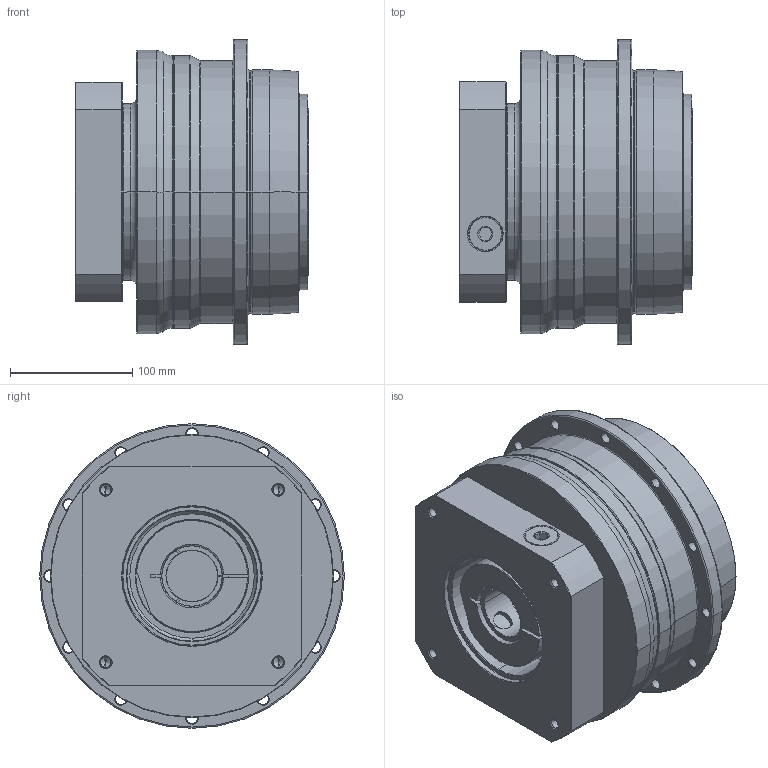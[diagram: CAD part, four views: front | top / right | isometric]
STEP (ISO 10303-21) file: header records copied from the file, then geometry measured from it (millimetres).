
FILE_DESCRIPTION((''),'2;1');
FILE_NAME('AH200_1ST_42-P0409A00101_ASM','2016-09-29T',('d00435'),(''),'PRO/ENGINEER BY PARAMETRIC TECHNOLOGY CORPORATION, 2008410','PRO/ENGINEER BY PARAMETRIC TECHNOLOGY CORPORATION, 2008410','');
FILE_SCHEMA(('CONFIG_CONTROL_DESIGN'));
Length unit declared in the file: millimetre
Products named in the file (8): P0278600003; P0359600003; P1318600301; P0409A00101; P0503A00012; P0912603201; 21711422019; AH200_1ST_42-P0409A00101_ASM
Assembly tree (7 placements, depth 2):
  AH200_1ST_42-P0409A00101_ASM
    P0278600003
    P0359600003
    P1318600301
    P0409A00101
    P0503A00012
    P0912603201
    21711422019
Bounding box: 191.5 x 249.5 x 249.5 mm (x, y, z)
Volume: 6268407.1 mm3; surface area: 560934.9 mm2
Topology: 8 solids, 32 shells, 619 faces, 1471 edges, 895 vertices
Faces by surface type: cylinder 256, cone 170, plane 117, torus 62, bspline 14
Entity records: 22466 total; most frequent: CARTESIAN_POINT 7771, DIRECTION 3359, ORIENTED_EDGE 2754, AXIS2_PLACEMENT_3D 1431, EDGE_CURVE 1425, VERTEX_POINT 895, CIRCLE 801, EDGE_LOOP 730
